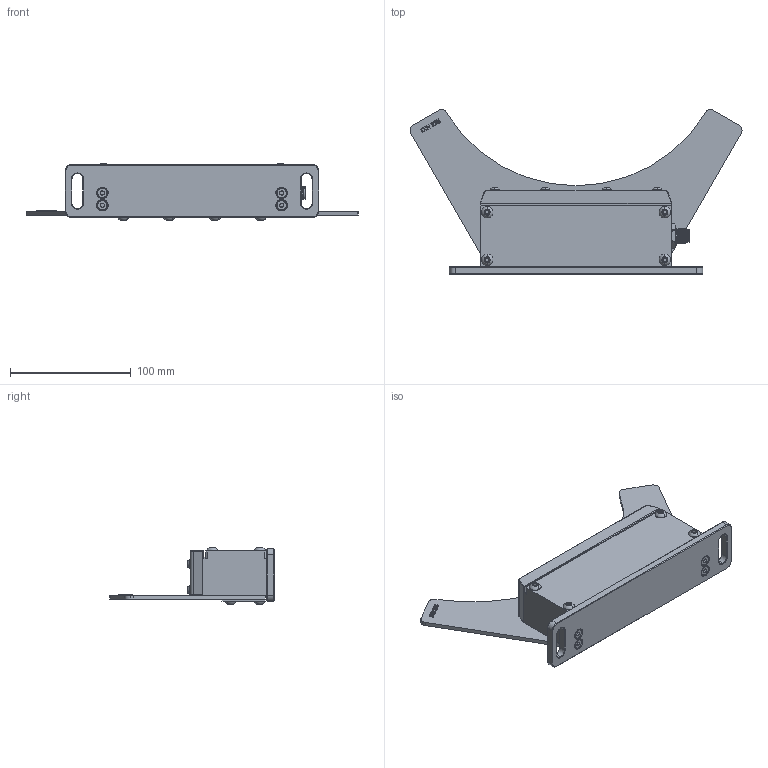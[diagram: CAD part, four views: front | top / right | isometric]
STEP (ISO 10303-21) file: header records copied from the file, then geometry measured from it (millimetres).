
FILE_DESCRIPTION (( 'STEP AP203' ), '1' );
FILE_NAME ('ATQ10SM-D23.STEP', '2019-02-01T21:14:57', ( '' ), ( '' ), 'SwSTEP 2.0', 'SolidWorks 2018', '' );
FILE_SCHEMA (( 'CONFIG_CONTROL_DESIGN' ));
Length unit declared in the file: millimetre
Products named in the file (1): ATQ10SM-D23
Bounding box: 275.26 x 136.6 x 47.03 mm (x, y, z)
Volume: 492931.3 mm3; surface area: 103843.2 mm2
Topology: 3 solids, 21 shells, 894 faces, 2029 edges, 1229 vertices
Faces by surface type: plane 331, cylinder 241, cone 192, bspline 69, sphere 49, torus 12
Entity records: 31662 total; most frequent: CARTESIAN_POINT 12012, DIRECTION 4030, ORIENTED_EDGE 4008, EDGE_CURVE 2004, AXIS2_PLACEMENT_3D 1573, VERTEX_POINT 1221, EDGE_LOOP 1013, ADVANCED_FACE 894
